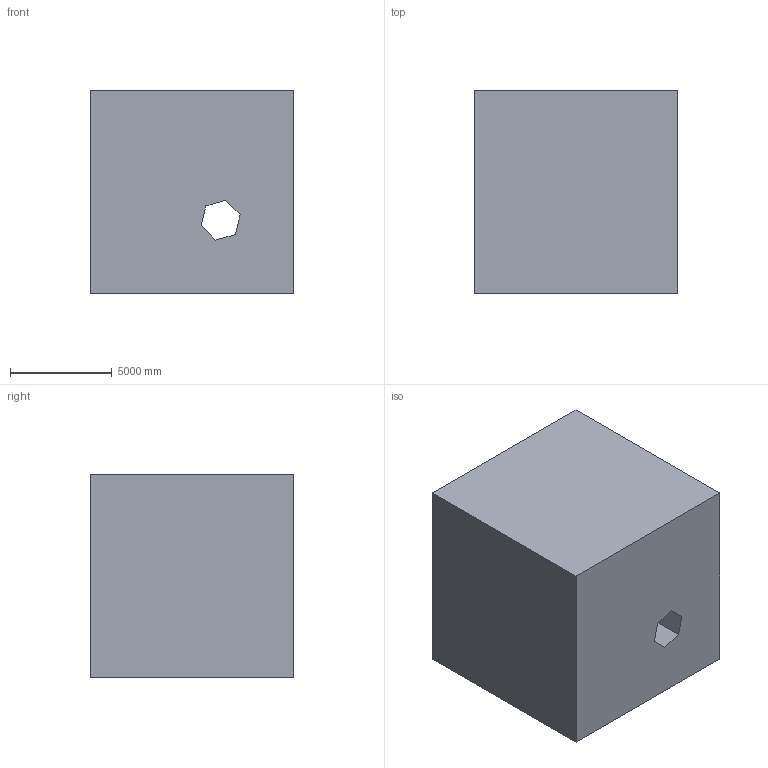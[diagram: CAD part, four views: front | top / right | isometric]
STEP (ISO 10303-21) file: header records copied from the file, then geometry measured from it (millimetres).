
FILE_DESCRIPTION (( 'STEP AP203' ), '1' );
FILE_NAME ('1102.STEP', '2022-08-18T12:46:12', ( 'user' ), ( '' ), 'SwSTEP 2.0', 'SolidWorks 2021', '' );
FILE_SCHEMA (( 'CONFIG_CONTROL_DESIGN' ));
Length unit declared in the file: centimetre
Products named in the file (1): 1102
Bounding box: 10000 x 10000 x 10000 mm (x, y, z)
Volume: 920276448402.8 mm3; surface area: 655069865.3 mm2
Topology: 1 solids, 1 shells, 15 faces, 39 edges, 26 vertices
Faces by surface type: plane 15
Entity records: 534 total; most frequent: CARTESIAN_POINT 81, ORIENTED_EDGE 78, DIRECTION 71, VECTOR 39, LINE 39, EDGE_CURVE 39, VERTEX_POINT 26, EDGE_LOOP 17
